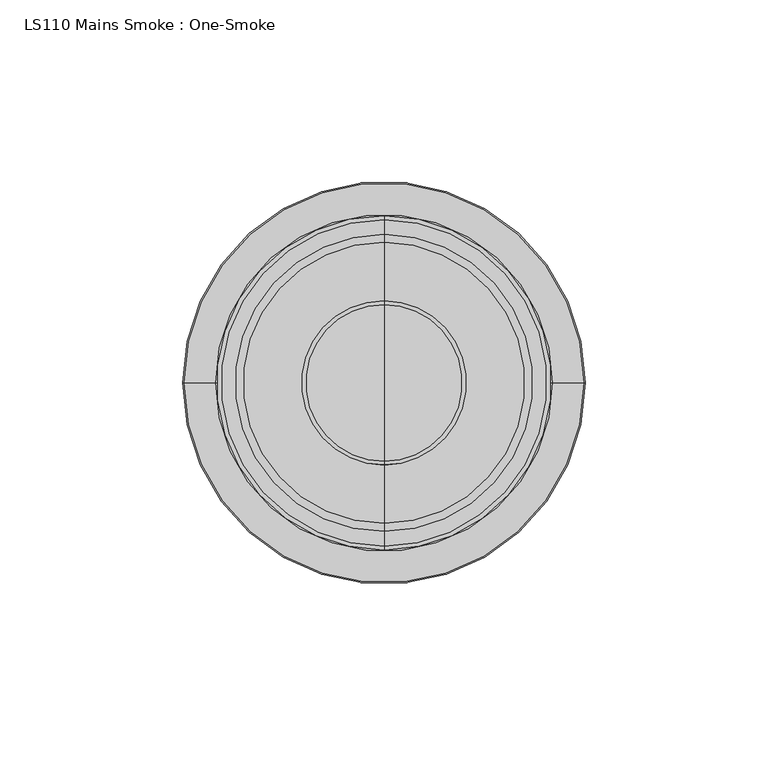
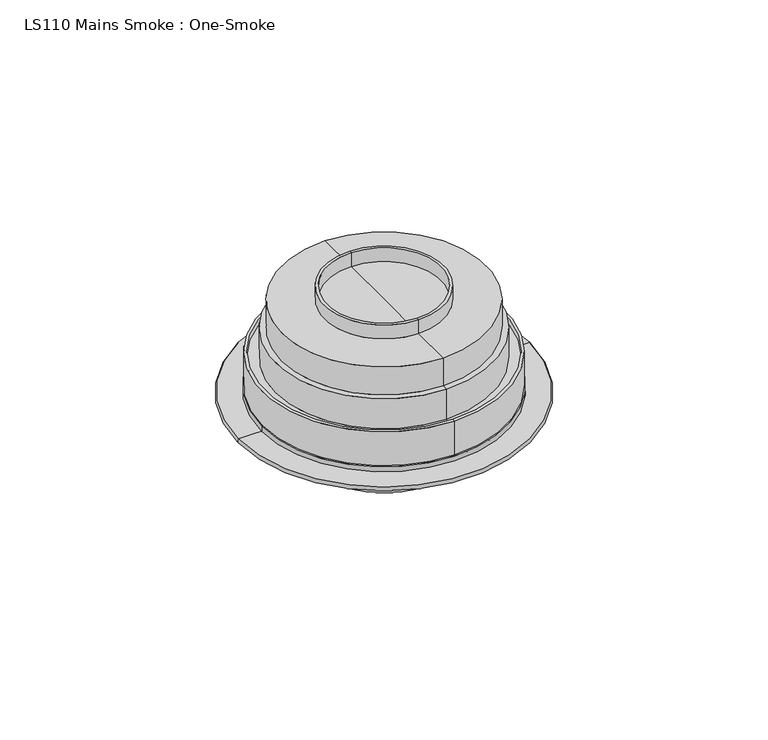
"""IFC4 building model written with IfcOpenShell, lengths in millimetres: light fixture geometry, LS110 Mains Smoke : One-Smoke."""

from ifc_helpers import new_model, si_unit, point, frame, origin, place, context, project, spatial, polyline, circle_curve, ellipse_curve, trimmed, source, transform, mapped, element, save
from ifc_brep_helpers import plane_surface, cylinder_surface, revolved_surface, advanced_brep


def ls110_mains_smoke_one_smoke_8b9af0ea(model_context):
    return source(origin(), model_context, "Body", "AdvancedBrep", [
        advanced_brep(
        [(-0.0291, 0.0, 3974.8311172), (-4.1121669, 0.0, 3974.8311172), (4.0539669, 0.0, 3974.8311172), (19.7035983, 0.0, 3976.7916827), (-19.7617982, 0.0, 3976.7916827), (-0.0291, 0.0, 3976.7916827)],
        [
            (0, 1),
            (1, 2, circle_curve(frame((-0.0291, 0.0, 3974.8311172), z_axis=(0.0, 0.0, -1.0), x_axis=(-1.0, 0.0, 0.0)), 4.0830669)),
            (2, 0),
            (2, 1, circle_curve(frame((-0.0291, 0.0, 3974.8311172), z_axis=(0.0, 0.0, -1.0), x_axis=(-1.0, 0.0, 0.0)), 4.0830669)),
            (3, 4, circle_curve(frame((-0.0291, 0.0, 3976.7916827), z_axis=(0.0, 0.0, 1.0), x_axis=(-1.0, 0.0, 0.0)), 19.7326982)),
            (4, 5),
            (5, 3),
            (4, 3, circle_curve(frame((-0.0291, 0.0, 3976.7916827), z_axis=(0.0, 0.0, 1.0), x_axis=(-1.0, 0.0, 0.0)), 19.7326982)),
            (1, 4, circle_curve(frame((44.4302261, 0.0, 4425.7458804), z_axis=(0.0, 1.0, 0.0), x_axis=(1.0, 0.0, 0.0)), 453.5201071)),
            (3, 2, circle_curve(frame((-44.488426, 0.0, 4425.7458804), z_axis=(0.0, 1.0, 0.0), x_axis=(-1.0, 0.0, 0.0)), 453.5201071)),
        ],
        [
            plane_surface(frame((-0.0291, 0.0, 3974.8311172), z_axis=(0.0, 0.0, -1.0), x_axis=(-1.0, 0.0, 0.0))),
            plane_surface(frame((-0.0291, 0.0, 3976.7916827), z_axis=(0.0, 0.0, 1.0), x_axis=(-1.0, 0.0, 0.0))),
            revolved_surface(trimmed(ellipse_curve(frame((44.4302261, 0.0, 4425.7458804), z_axis=(0.0, -1.0, 0.0), x_axis=(1.0, 0.0, 0.0)), 453.5201071, 453.5201071), [point((-19.7617982, 0.0, 3976.7916827))], [point((-4.1121669, 0.0, 3974.8311172))], True, "CARTESIAN"), (-0.0291, 0.0, 4324.4347907), (0.0, 0.0, -1.0)),
        ],
        [
            (0, [[1, 2, 3]]),
            (0, [[-3, 4, -1]]),
            (1, [[5, 6, 7]]),
            (1, [[8, -7, -6]]),
            (2, [[-2, 9, -5, 10]]),
            (2, [[-4, -10, -8, -9]]),
        ],
    ),
        advanced_brep(
        [(-0.0291, 0.0, 3976.7916827), (-19.7617982, 0.0, 3976.7916827), (19.7035983, 0.0, 3976.7916827), (27.4999315, 0.0, 3978.7355269), (-27.5581315, 0.0, 3978.7355269), (-0.0291, 0.0, 3978.7355269)],
        [
            (0, 1),
            (1, 2, circle_curve(frame((-0.0291, 0.0, 3976.7916827), z_axis=(0.0, 0.0, -1.0), x_axis=(-1.0, 0.0, 0.0)), 19.7326982)),
            (2, 0),
            (2, 1, circle_curve(frame((-0.0291, 0.0, 3976.7916827), z_axis=(0.0, 0.0, -1.0), x_axis=(-1.0, 0.0, 0.0)), 19.7326982)),
            (3, 4, circle_curve(frame((-0.0291, 0.0, 3978.7355269), z_axis=(0.0, 0.0, 1.0), x_axis=(-1.0, 0.0, 0.0)), 27.5290315)),
            (4, 5),
            (5, 3),
            (4, 3, circle_curve(frame((-0.0291, 0.0, 3978.7355269), z_axis=(0.0, 0.0, 1.0), x_axis=(-1.0, 0.0, 0.0)), 27.5290315)),
            (1, 4, circle_curve(frame((-18.7375811, 0.0, 3997.5062079), z_axis=(0.0, 1.0, 0.0), x_axis=(1.0, 0.0, 0.0)), 20.7398306)),
            (3, 2, circle_curve(frame((18.6793811, 0.0, 3997.5062079), z_axis=(0.0, 1.0, 0.0), x_axis=(-1.0, 0.0, 0.0)), 20.7398306)),
        ],
        [
            plane_surface(frame((-0.0291, 0.0, 3976.7916827), z_axis=(0.0, 0.0, -1.0), x_axis=(-1.0, 0.0, 0.0))),
            plane_surface(frame((-0.0291, 0.0, 3978.7355269), z_axis=(0.0, 0.0, 1.0), x_axis=(-1.0, 0.0, 0.0))),
            revolved_surface(trimmed(ellipse_curve(frame((-18.7375811, 0.0, 3997.5062079), z_axis=(0.0, -1.0, 0.0), x_axis=(1.0, 0.0, 0.0)), 20.7398306, 20.7398306), [point((-27.5581315, 0.0, 3978.7355269))], [point((-19.7617982, 0.0, 3976.7916827))], True, "CARTESIAN"), (-0.0291, 0.0, 4324.4347907), (0.0, 0.0, -1.0)),
        ],
        [
            (0, [[1, 2, 3]]),
            (0, [[-3, 4, -1]]),
            (1, [[5, 6, 7]]),
            (1, [[8, -7, -6]]),
            (2, [[-2, 9, -5, 10]]),
            (2, [[-4, -10, -8, -9]]),
        ],
    ),
        advanced_brep(
        [(-0.0291, 0.0, 3978.7355269), (-27.5581315, 0.0, 3978.7355269), (27.4999315, 0.0, 3978.7355269), (28.9292988, 0.0, 3980.9449981), (-28.9874987, 0.0, 3980.9449981), (-0.0291, 0.0, 3980.9449981)],
        [
            (0, 1),
            (1, 2, circle_curve(frame((-0.0291, 0.0, 3978.7355269), z_axis=(0.0, 0.0, -1.0), x_axis=(-1.0, 0.0, 0.0)), 27.5290315)),
            (2, 0),
            (2, 1, circle_curve(frame((-0.0291, 0.0, 3978.7355269), z_axis=(0.0, 0.0, -1.0), x_axis=(-1.0, 0.0, 0.0)), 27.5290315)),
            (3, 4, circle_curve(frame((-0.0291, 0.0, 3980.9449981), z_axis=(0.0, 0.0, 1.0), x_axis=(-1.0, 0.0, 0.0)), 28.9583987)),
            (4, 5),
            (5, 3),
            (4, 3, circle_curve(frame((-0.0291, 0.0, 3980.9449981), z_axis=(0.0, 0.0, 1.0), x_axis=(-1.0, 0.0, 0.0)), 28.9583987)),
            (1, 4, circle_curve(frame((-26.5278275, 0.0, 3980.9691426), z_axis=(0.0, 1.0, 0.0), x_axis=(1.0, 0.0, 0.0)), 2.4597897)),
            (3, 2, circle_curve(frame((26.4696276, 0.0, 3980.9691426), z_axis=(0.0, 1.0, 0.0), x_axis=(-1.0, 0.0, 0.0)), 2.4597897)),
        ],
        [
            plane_surface(frame((-0.0291, 0.0, 3978.7355269), z_axis=(0.0, 0.0, -1.0), x_axis=(-1.0, 0.0, 0.0))),
            plane_surface(frame((-0.0291, 0.0, 3980.9449981), z_axis=(0.0, 0.0, 1.0), x_axis=(-1.0, 0.0, 0.0))),
            revolved_surface(trimmed(ellipse_curve(frame((-26.5278275, 0.0, 3980.9691426), z_axis=(0.0, -1.0, 0.0), x_axis=(1.0, 0.0, 0.0)), 2.4597897, 2.4597897), [point((-28.9874987, 0.0, 3980.9449981))], [point((-27.5581315, 0.0, 3978.7355269))], True, "CARTESIAN"), (-0.0291, 0.0, 4324.4347907), (0.0, 0.0, -1.0)),
        ],
        [
            (0, [[1, 2, 3]]),
            (0, [[-3, 4, -1]]),
            (1, [[5, 6, 7]]),
            (1, [[8, -7, -6]]),
            (2, [[-2, 9, -5, 10]]),
            (2, [[-4, -10, -8, -9]]),
        ],
    ),
        advanced_brep(
        [(28.9292988, 0.0, 3984.0699981), (-28.9874987, 0.0, 3984.0699981), (-0.0291, 0.0, 3984.0699981), (28.9292988, 0.0, 3980.9449981), (-28.9874987, 0.0, 3980.9449981), (-0.0291, 0.0, 3980.9449981)],
        [
            (0, 1, circle_curve(frame((-0.0291, 0.0, 3984.0699981), z_axis=(0.0, 0.0, 1.0), x_axis=(-1.0, 0.0, 0.0)), 28.9583987)),
            (1, 2),
            (2, 0),
            (1, 0, circle_curve(frame((-0.0291, 0.0, 3984.0699981), z_axis=(0.0, 0.0, 1.0), x_axis=(-1.0, 0.0, 0.0)), 28.9583987)),
            (3, 4, circle_curve(frame((-0.0291, 0.0, 3980.9449981), z_axis=(0.0, 0.0, 1.0), x_axis=(-1.0, 0.0, 0.0)), 28.9583987)),
            (4, 1),
            (0, 3),
            (4, 3, circle_curve(frame((-0.0291, 0.0, 3980.9449981), z_axis=(0.0, 0.0, 1.0), x_axis=(-1.0, 0.0, 0.0)), 28.9583987)),
            (5, 4),
            (3, 5),
        ],
        [
            plane_surface(frame((-0.0291, 0.0, 3984.0699981), z_axis=(0.0, 0.0, 1.0), x_axis=(-1.0, 0.0, 0.0))),
            cylinder_surface(frame((-0.0291, 0.0, 4324.4347907), z_axis=(0.0, 0.0, -1.0), x_axis=(-1.0, 0.0, 0.0)), 28.9583987),
            plane_surface(frame((-0.0291, 0.0, 3980.9449981), z_axis=(0.0, 0.0, -1.0), x_axis=(-1.0, 0.0, 0.0))),
        ],
        [
            (0, [[1, 2, 3]]),
            (0, [[4, -3, -2]]),
            (1, [[5, 6, -1, 7]]),
            (1, [[8, -7, -4, -6]]),
            (2, [[9, -5, 10]]),
            (2, [[-10, -8, -9]]),
        ],
    ),
        advanced_brep(
        [(28.9292988, 0.0, 3994.79), (-28.9874987, 0.0, 3994.79), (-0.0291, 0.0, 3994.79), (28.9292988, 0.0, 3993.3552829), (-28.9874987, 0.0, 3993.3552829), (-0.0291, 0.0, 3993.3552829)],
        [
            (0, 1, circle_curve(frame((-0.0291, 0.0, 3994.79), z_axis=(0.0, 0.0, 1.0), x_axis=(-1.0, 0.0, 0.0)), 28.9583987)),
            (1, 2),
            (2, 0),
            (1, 0, circle_curve(frame((-0.0291, 0.0, 3994.79), z_axis=(0.0, 0.0, 1.0), x_axis=(-1.0, 0.0, 0.0)), 28.9583987)),
            (3, 4, circle_curve(frame((-0.0291, 0.0, 3993.3552829), z_axis=(0.0, 0.0, 1.0), x_axis=(-1.0, 0.0, 0.0)), 28.9583987)),
            (4, 1),
            (0, 3),
            (4, 3, circle_curve(frame((-0.0291, 0.0, 3993.3552829), z_axis=(0.0, 0.0, 1.0), x_axis=(-1.0, 0.0, 0.0)), 28.9583987)),
            (5, 4),
            (3, 5),
        ],
        [
            plane_surface(frame((-0.0291, 0.0, 3994.79), z_axis=(0.0, 0.0, 1.0), x_axis=(-1.0, 0.0, 0.0))),
            cylinder_surface(frame((-0.0291, 0.0, 4324.4347907), z_axis=(0.0, 0.0, -1.0), x_axis=(-1.0, 0.0, 0.0)), 28.9583987),
            plane_surface(frame((-0.0291, 0.0, 3993.3552829), z_axis=(0.0, 0.0, -1.0), x_axis=(-1.0, 0.0, 0.0))),
        ],
        [
            (0, [[1, 2, 3]]),
            (0, [[4, -3, -2]]),
            (1, [[5, 6, -1, 7]]),
            (1, [[8, -7, -4, -6]]),
            (2, [[9, -5, 10]]),
            (2, [[-10, -8, -9]]),
        ],
    ),
        advanced_brep(
        [(28.0845952, 0.0, 3984.0699981), (-28.1427952, 0.0, 3984.0699981), (-28.1427952, 0.0, 3993.3552829), (28.0845952, 0.0, 3993.3552829), (-0.0291, 0.0, 3984.0699981), (-0.0291, 0.0, 3993.3552829)],
        [
            (0, 1, circle_curve(frame((-0.0291, 0.0, 3984.0699981), z_axis=(0.0, 0.0, 1.0), x_axis=(-1.0, 0.0, 0.0)), 28.1136952)),
            (1, 2),
            (2, 3, circle_curve(frame((-0.0291, 0.0, 3993.3552829), z_axis=(0.0, 0.0, -1.0), x_axis=(-1.0, 0.0, 0.0)), 28.1136952)),
            (3, 0),
            (1, 0, circle_curve(frame((-0.0291, 0.0, 3984.0699981), z_axis=(0.0, 0.0, 1.0), x_axis=(-1.0, 0.0, 0.0)), 28.1136952)),
            (3, 2, circle_curve(frame((-0.0291, 0.0, 3993.3552829), z_axis=(0.0, 0.0, -1.0), x_axis=(-1.0, 0.0, 0.0)), 28.1136952)),
            (4, 1),
            (0, 4),
            (2, 5),
            (5, 3),
        ],
        [
            cylinder_surface(frame((-0.0291, 0.0, 4324.4347907), z_axis=(0.0, 0.0, -1.0), x_axis=(-1.0, 0.0, 0.0)), 28.1136952),
            plane_surface(frame((-0.0291, 0.0, 3984.0699981), z_axis=(0.0, 0.0, -1.0), x_axis=(-1.0, 0.0, 0.0))),
            plane_surface(frame((-0.0291, 0.0, 3993.3552829), z_axis=(0.0, 0.0, 1.0), x_axis=(-1.0, 0.0, 0.0))),
        ],
        [
            (0, [[1, 2, 3, 4]]),
            (0, [[5, -4, 6, -2]]),
            (1, [[7, -1, 8]]),
            (1, [[-8, -5, -7]]),
            (2, [[-3, 9, 10]]),
            (2, [[-6, -10, -9]]),
        ],
    ),
        advanced_brep(
        [(-46.0291, 0.0, 4000.0), (45.9709, 0.0, 4000.0), (-0.0291, 0.0, 4000.0), (-46.0291, 0.0, 4001.88), (45.9709, 0.0, 4001.88), (-0.0291, 0.0, 4001.88)],
        [
            (0, 1, circle_curve(frame((-0.0291, 0.0, 4000.0), z_axis=(0.0, 0.0, -1.0), x_axis=(1.0, 0.0, 0.0)), 46.0)),
            (1, 2),
            (2, 0),
            (1, 0, circle_curve(frame((-0.0291, 0.0, 4000.0), z_axis=(0.0, 0.0, -1.0), x_axis=(1.0, 0.0, 0.0)), 46.0)),
            (3, 4, circle_curve(frame((-0.0291, 0.0, 4001.88), z_axis=(0.0, 0.0, -1.0), x_axis=(1.0, 0.0, 0.0)), 46.0)),
            (4, 1),
            (0, 3),
            (4, 3, circle_curve(frame((-0.0291, 0.0, 4001.88), z_axis=(0.0, 0.0, -1.0), x_axis=(1.0, 0.0, 0.0)), 46.0)),
            (5, 4),
            (3, 5),
        ],
        [
            plane_surface(frame((-0.0291, 0.0, 4000.0), z_axis=(0.0, 0.0, -1.0), x_axis=(1.0, 0.0, 0.0))),
            cylinder_surface(frame((-0.0291, 0.0, 3993.7591953), z_axis=(0.0, 0.0, 1.0), x_axis=(1.0, 0.0, 0.0)), 46.0),
            plane_surface(frame((-0.0291, 0.0, 4001.88), z_axis=(0.0, 0.0, 1.0), x_axis=(1.0, 0.0, 0.0))),
        ],
        [
            (0, [[1, 2, 3]]),
            (0, [[4, -3, -2]]),
            (1, [[5, 6, -1, 7]]),
            (1, [[8, -7, -4, -6]]),
            (2, [[9, -5, 10]]),
            (2, [[-10, -8, -9]]),
        ],
    ),
        advanced_brep(
        [(-54.461143, 0.0, 3998.2898924), (54.4029431, 0.0, 3998.2898924), (47.8206028, 0.0, 3994.79), (-47.8788028, 0.0, 3994.79), (-54.7442231, 0.0, 4000.0), (54.6860231, 0.0, 4000.0), (-26.7756724, 0.0, 4000.0), (26.7174725, 0.0, 4000.0), (26.7174725, 0.0, 3994.79), (-26.7756724, 0.0, 3994.79)],
        [
            (0, 1, circle_curve(frame((-0.0291, 0.0, 3998.2898924), z_axis=(0.0, 0.0, -1.0), x_axis=(1.0, 0.0, 0.0)), 54.4320431)),
            (1, 2),
            (2, 3, circle_curve(frame((-0.0291, 0.0, 3994.79), z_axis=(0.0, 0.0, 1.0), x_axis=(1.0, 0.0, 0.0)), 47.8497028)),
            (3, 0),
            (1, 0, circle_curve(frame((-0.0291, 0.0, 3998.2898924), z_axis=(0.0, 0.0, -1.0), x_axis=(1.0, 0.0, 0.0)), 54.4320431)),
            (3, 2, circle_curve(frame((-0.0291, 0.0, 3994.79), z_axis=(0.0, 0.0, 1.0), x_axis=(1.0, 0.0, 0.0)), 47.8497028)),
            (4, 5, circle_curve(frame((-0.0291, 0.0, 4000.0), z_axis=(0.0, 0.0, -1.0), x_axis=(1.0, 0.0, 0.0)), 54.7151231)),
            (5, 1, circle_curve(frame((53.8907655, 0.0, 3999.2531583), z_axis=(0.0, 1.0, 0.0), x_axis=(1.0, 0.0, 0.0)), 1.0909661)),
            (0, 4, circle_curve(frame((-53.9489654, 0.0, 3999.2531583), z_axis=(0.0, 1.0, 0.0), x_axis=(-1.0, 0.0, 0.0)), 1.0909661)),
            (5, 4, circle_curve(frame((-0.0291, 0.0, 4000.0), z_axis=(0.0, 0.0, -1.0), x_axis=(1.0, 0.0, 0.0)), 54.7151231)),
            (6, 7, circle_curve(frame((-0.0291, 0.0, 4000.0), z_axis=(0.0, 0.0, -1.0), x_axis=(1.0, 0.0, 0.0)), 26.7465724)),
            (7, 5),
            (4, 6),
            (7, 6, circle_curve(frame((-0.0291, 0.0, 4000.0), z_axis=(0.0, 0.0, -1.0), x_axis=(1.0, 0.0, 0.0)), 26.7465724)),
            (2, 8),
            (8, 9, circle_curve(frame((-0.0291, 0.0, 3994.79), z_axis=(0.0, 0.0, 1.0), x_axis=(1.0, 0.0, 0.0)), 26.7465724)),
            (9, 3),
            (9, 8, circle_curve(frame((-0.0291, 0.0, 3994.79), z_axis=(0.0, 0.0, 1.0), x_axis=(1.0, 0.0, 0.0)), 26.7465724)),
            (8, 7),
            (6, 9),
        ],
        [
            revolved_surface(polyline([(47.8206028, 0.0, 3994.79), (54.4029431, 0.0, 3998.2898924)]), (-0.0291, 0.0, 4324.4347907), (0.0, 0.0, 1.0)),
            revolved_surface(trimmed(ellipse_curve(frame((53.8907655, 0.0, 3999.2531583), z_axis=(0.0, -1.0, 0.0), x_axis=(1.0, 0.0, 0.0)), 1.0909661, 1.0909661), [point((54.4029431, 0.0, 3998.2898924))], [point((54.6860231, 0.0, 4000.0))], True, "CARTESIAN"), (-0.0291, 0.0, 4324.4347907), (0.0, 0.0, 1.0)),
            plane_surface(frame((-0.0291, 0.0, 4000.0), z_axis=(0.0, 0.0, 1.0), x_axis=(1.0, 0.0, 0.0))),
            plane_surface(frame((-0.0291, 0.0, 3994.79), z_axis=(0.0, 0.0, -1.0), x_axis=(1.0, 0.0, 0.0))),
            revolved_surface(polyline([(26.717472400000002, 0.0, 4000.0), (26.717472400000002, 0.0, 3994.79)]), (-0.0291, 0.0, 4324.4347907), (0.0, 0.0, 1.0)),
        ],
        [
            (0, [[1, 2, 3, 4]]),
            (0, [[5, -4, 6, -2]]),
            (1, [[7, 8, -1, 9]]),
            (1, [[10, -9, -5, -8]]),
            (2, [[11, 12, -7, 13]]),
            (2, [[14, -13, -10, -12]]),
            (3, [[-3, 15, 16, 17]]),
            (3, [[-6, -17, 18, -15]]),
            (4, [[-16, 19, -11, 20]]),
            (4, [[-18, -20, -14, -19]]),
        ],
    ),
        advanced_brep(
        [(-0.0291, 38.41986, 4025.2200055), (-0.0291, -38.41986, 4025.2200055), (-0.0291, -38.41986, 4036.27), (-0.0291, 38.41986, 4036.27), (-0.0291, 40.6278014, 4025.2200055), (-0.0291, -40.6278014, 4025.2200055), (-0.0291, 40.6278014, 4013.3214017), (-0.0291, -40.6278014, 4013.3214017), (-0.0291, 44.6302193, 4013.3214017), (-0.0291, -44.6302193, 4013.3214017), (-0.0291, 44.6302193, 4015.63), (-0.0291, -44.6302193, 4015.63), (-0.0291, 45.6921331, 4015.63), (-0.0291, -45.6921331, 4015.63), (-0.0291, 45.6921331, 4000.0), (-0.0291, -45.6921331, 4000.0), (-0.0291, 0.0, 4000.0), (-0.0291, -22.4510975, 4036.27), (-0.0291, 22.4510975, 4036.27), (-0.0291, 21.4345521, 4036.27), (-0.0291, -21.4345521, 4036.27), (-0.0291, 0.0, 4036.27), (-0.0291, 21.4345521, 4041.77), (-0.0291, -21.4345521, 4041.77), (-0.0291, 22.4510975, 4041.77), (-0.0291, -22.4510975, 4041.77)],
        [
            (0, 1, circle_curve(frame((-0.0291, 0.0, 4025.2200055), z_axis=(0.0, 0.0, 1.0), x_axis=(0.0, -1.0, 0.0)), 38.41986)),
            (1, 2),
            (2, 3, circle_curve(frame((-0.0291, 0.0, 4036.27), z_axis=(0.0, 0.0, -1.0), x_axis=(0.0, -1.0, 0.0)), 38.41986)),
            (3, 0),
            (1, 0, circle_curve(frame((-0.0291, 0.0, 4025.2200055), z_axis=(0.0, 0.0, 1.0), x_axis=(0.0, -1.0, 0.0)), 38.41986)),
            (3, 2, circle_curve(frame((-0.0291, 0.0, 4036.27), z_axis=(0.0, 0.0, -1.0), x_axis=(0.0, -1.0, 0.0)), 38.41986)),
            (4, 5, circle_curve(frame((-0.0291, 0.0, 4025.2200055), z_axis=(0.0, 0.0, 1.0), x_axis=(0.0, -1.0, 0.0)), 40.6278014)),
            (5, 1),
            (0, 4),
            (5, 4, circle_curve(frame((-0.0291, 0.0, 4025.2200055), z_axis=(0.0, 0.0, 1.0), x_axis=(0.0, -1.0, 0.0)), 40.6278014)),
            (6, 7, circle_curve(frame((-0.0291, 0.0, 4013.3214017), z_axis=(0.0, 0.0, 1.0), x_axis=(0.0, -1.0, 0.0)), 40.6278014)),
            (7, 5),
            (4, 6),
            (7, 6, circle_curve(frame((-0.0291, 0.0, 4013.3214017), z_axis=(0.0, 0.0, 1.0), x_axis=(0.0, -1.0, 0.0)), 40.6278014)),
            (8, 9, circle_curve(frame((-0.0291, 0.0, 4013.3214017), z_axis=(0.0, 0.0, 1.0), x_axis=(0.0, -1.0, 0.0)), 44.6302193)),
            (9, 7),
            (6, 8),
            (9, 8, circle_curve(frame((-0.0291, 0.0, 4013.3214017), z_axis=(0.0, 0.0, 1.0), x_axis=(0.0, -1.0, 0.0)), 44.6302193)),
            (10, 11, circle_curve(frame((-0.0291, 0.0, 4015.63), z_axis=(0.0, 0.0, 1.0), x_axis=(0.0, -1.0, 0.0)), 44.6302193)),
            (11, 9),
            (8, 10),
            (11, 10, circle_curve(frame((-0.0291, 0.0, 4015.63), z_axis=(0.0, 0.0, 1.0), x_axis=(0.0, -1.0, 0.0)), 44.6302193)),
            (12, 13, circle_curve(frame((-0.0291, 0.0, 4015.63), z_axis=(0.0, 0.0, 1.0), x_axis=(0.0, -1.0, 0.0)), 45.6921331)),
            (13, 11),
            (10, 12),
            (13, 12, circle_curve(frame((-0.0291, 0.0, 4015.63), z_axis=(0.0, 0.0, 1.0), x_axis=(0.0, -1.0, 0.0)), 45.6921331)),
            (14, 15, circle_curve(frame((-0.0291, 0.0, 4000.0), z_axis=(0.0, 0.0, 1.0), x_axis=(0.0, -1.0, 0.0)), 45.6921331)),
            (15, 13),
            (12, 14),
            (15, 14, circle_curve(frame((-0.0291, 0.0, 4000.0), z_axis=(0.0, 0.0, 1.0), x_axis=(0.0, -1.0, 0.0)), 45.6921331)),
            (16, 15),
            (14, 16),
            (2, 17),
            (17, 18, circle_curve(frame((-0.0291, 0.0, 4036.27), z_axis=(0.0, 0.0, -1.0), x_axis=(0.0, -1.0, 0.0)), 22.4510975)),
            (18, 3),
            (18, 17, circle_curve(frame((-0.0291, 0.0, 4036.27), z_axis=(0.0, 0.0, -1.0), x_axis=(0.0, -1.0, 0.0)), 22.4510975)),
            (19, 20, circle_curve(frame((-0.0291, 0.0, 4036.27), z_axis=(0.0, 0.0, 1.0), x_axis=(0.0, -1.0, 0.0)), 21.4345521)),
            (20, 21),
            (21, 19),
            (20, 19, circle_curve(frame((-0.0291, 0.0, 4036.27), z_axis=(0.0, 0.0, 1.0), x_axis=(0.0, -1.0, 0.0)), 21.4345521)),
            (22, 23, circle_curve(frame((-0.0291, 0.0, 4041.77), z_axis=(0.0, 0.0, 1.0), x_axis=(0.0, -1.0, 0.0)), 21.4345521)),
            (23, 20),
            (19, 22),
            (23, 22, circle_curve(frame((-0.0291, 0.0, 4041.77), z_axis=(0.0, 0.0, 1.0), x_axis=(0.0, -1.0, 0.0)), 21.4345521)),
            (24, 25, circle_curve(frame((-0.0291, 0.0, 4041.77), z_axis=(0.0, 0.0, 1.0), x_axis=(0.0, -1.0, 0.0)), 22.4510975)),
            (25, 23),
            (22, 24),
            (25, 24, circle_curve(frame((-0.0291, 0.0, 4041.77), z_axis=(0.0, 0.0, 1.0), x_axis=(0.0, -1.0, 0.0)), 22.4510975)),
            (17, 25),
            (24, 18),
        ],
        [
            cylinder_surface(frame((-0.0291, 0.0, 4369.9206714), z_axis=(0.0, 0.0, -1.0), x_axis=(0.0, -1.0, 0.0)), 38.41986),
            plane_surface(frame((-0.0291, 0.0, 4025.2200055), z_axis=(0.0, 0.0, 1.0), x_axis=(0.0, -1.0, 0.0))),
            cylinder_surface(frame((-0.0291, 0.0, 4369.9206714), z_axis=(0.0, 0.0, -1.0), x_axis=(0.0, -1.0, 0.0)), 40.6278014),
            plane_surface(frame((-0.0291, 0.0, 4013.3214017), z_axis=(0.0, 0.0, 1.0), x_axis=(0.0, -1.0, 0.0))),
            revolved_surface(polyline([(-0.0291, -44.6302193, 4013.3214017), (-0.0291, -44.6302193, 4015.63)]), (-0.0291, 0.0, 4369.9206714), (0.0, 0.0, -1.0)),
            plane_surface(frame((-0.0291, 0.0, 4015.63), z_axis=(0.0, 0.0, 1.0), x_axis=(0.0, -1.0, 0.0))),
            cylinder_surface(frame((-0.0291, 0.0, 4369.9206714), z_axis=(0.0, 0.0, -1.0), x_axis=(0.0, -1.0, 0.0)), 45.6921331),
            plane_surface(frame((-0.0291, 0.0, 4000.0), z_axis=(0.0, 0.0, -1.0), x_axis=(0.0, -1.0, 0.0))),
            plane_surface(frame((-0.0291, 0.0, 4036.27), z_axis=(0.0, 0.0, 1.0), x_axis=(0.0, -1.0, 0.0))),
            revolved_surface(polyline([(-0.0291, -21.4345521, 4036.27), (-0.0291, -21.4345521, 4041.77)]), (-0.0291, 0.0, 4369.9206714), (0.0, 0.0, -1.0)),
            plane_surface(frame((-0.0291, 0.0, 4041.77), z_axis=(0.0, 0.0, 1.0), x_axis=(0.0, -1.0, 0.0))),
            cylinder_surface(frame((-0.0291, 0.0, 4369.9206714), z_axis=(0.0, 0.0, -1.0), x_axis=(0.0, -1.0, 0.0)), 22.4510975),
        ],
        [
            (0, [[1, 2, 3, 4]]),
            (0, [[5, -4, 6, -2]]),
            (1, [[7, 8, -1, 9]]),
            (1, [[10, -9, -5, -8]]),
            (2, [[11, 12, -7, 13]]),
            (2, [[14, -13, -10, -12]]),
            (3, [[15, 16, -11, 17]]),
            (3, [[18, -17, -14, -16]]),
            (4, [[19, 20, -15, 21]]),
            (4, [[22, -21, -18, -20]]),
            (5, [[23, 24, -19, 25]]),
            (5, [[26, -25, -22, -24]]),
            (6, [[27, 28, -23, 29]]),
            (6, [[30, -29, -26, -28]]),
            (7, [[31, -27, 32]]),
            (7, [[-32, -30, -31]]),
            (8, [[-3, 33, 34, 35]]),
            (8, [[-6, -35, 36, -33]]),
            (8, [[37, 38, 39]]),
            (8, [[40, -39, -38]]),
            (9, [[41, 42, -37, 43]]),
            (9, [[44, -43, -40, -42]]),
            (10, [[45, 46, -41, 47]]),
            (10, [[48, -47, -44, -46]]),
            (11, [[-34, 49, -45, 50]]),
            (11, [[-36, -50, -48, -49]]),
        ],
    ),
        advanced_brep(
        [(-0.0291, 45.5019222, 4000.0), (-0.0291, -45.5019222, 4000.0), (-0.0291, 0.0, 4000.0), (-0.0291, 46.154328, 3998.87), (-0.0291, -46.154328, 3998.87), (-0.0291, 0.0, 3998.87)],
        [
            (0, 1, circle_curve(frame((-0.0291, 0.0, 4000.0), z_axis=(0.0, 0.0, 1.0), x_axis=(0.0, -1.0, 0.0)), 45.5019222)),
            (1, 2),
            (2, 0),
            (1, 0, circle_curve(frame((-0.0291, 0.0, 4000.0), z_axis=(0.0, 0.0, 1.0), x_axis=(0.0, -1.0, 0.0)), 45.5019222)),
            (3, 4, circle_curve(frame((-0.0291, 0.0, 3998.87), z_axis=(0.0, 0.0, 1.0), x_axis=(0.0, -1.0, 0.0)), 46.154328)),
            (4, 1, circle_curve(frame((-0.0291, -46.2918945, 3999.7027574), z_axis=(1.0, 0.0, 0.0), x_axis=(0.0, -1.0, 0.0)), 0.8440435)),
            (0, 3, circle_curve(frame((-0.0291, 46.2918945, 3999.7027574), z_axis=(1.0, 0.0, 0.0), x_axis=(0.0, 1.0, 0.0)), 0.8440435)),
            (4, 3, circle_curve(frame((-0.0291, 0.0, 3998.87), z_axis=(0.0, 0.0, 1.0), x_axis=(0.0, -1.0, 0.0)), 46.154328)),
            (5, 4),
            (3, 5),
        ],
        [
            plane_surface(frame((-0.0291, 0.0, 4000.0), z_axis=(0.0, 0.0, 1.0), x_axis=(0.0, -1.0, 0.0))),
            revolved_surface(trimmed(ellipse_curve(frame((-0.0291, -46.2918945, 3999.7027574), z_axis=(-1.0, 0.0, 0.0), x_axis=(0.0, -1.0, 0.0)), 0.8440435, 0.8440435), [point((-0.0291, -45.5019222, 4000.0))], [point((-0.0291, -46.154328, 3998.87))], True, "CARTESIAN"), (-0.0291, 0.0, 4284.4582372), (0.0, 0.0, -1.0)),
            plane_surface(frame((-0.0291, 0.0, 3998.87), z_axis=(0.0, 0.0, -1.0), x_axis=(0.0, -1.0, 0.0))),
        ],
        [
            (0, [[1, 2, 3]]),
            (0, [[4, -3, -2]]),
            (1, [[5, 6, -1, 7]]),
            (1, [[8, -7, -4, -6]]),
            (2, [[9, -5, 10]]),
            (2, [[-10, -8, -9]]),
        ],
    ),
    ])


if __name__ == "__main__":
    model = new_model("IFC4")
    model_context = context("Model", 3, world=origin())
    ifc_project = project(units=[si_unit("LENGTHUNIT", "METRE", prefix="MILLI")], contexts=[model_context])
    site = spatial("IfcSite", under=ifc_project)
    building = spatial("IfcBuilding", under=site)
    placement = place(None, origin())
    ls110_mains_smoke_one_smoke_shape = ls110_mains_smoke_one_smoke_8b9af0ea(model_context)
    element("IfcLightFixture", 1, ObjectType="LS110 Mains Smoke : One-Smoke", at=placement, inside=building, context=model_context, shape_type="MappedRepresentation", body=[
        mapped(ls110_mains_smoke_one_smoke_shape, transform((0.0, 0.0, 0.0), x_axis=(1.0, 0.0, 0.0), y_axis=(0.0, 1.0, 0.0), z_axis=(0.0, 0.0, 1.0))),
    ])
    save(model, "model.ifc")
